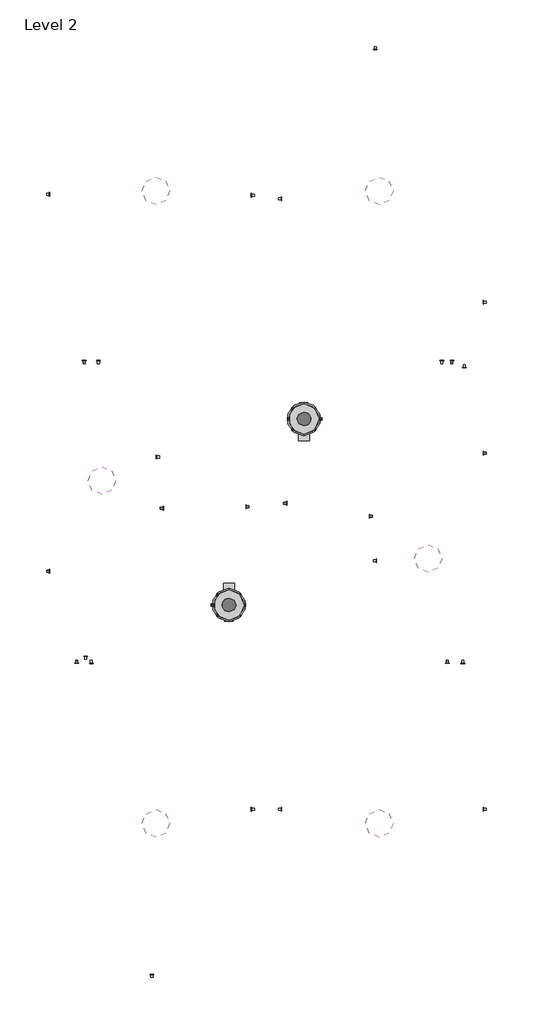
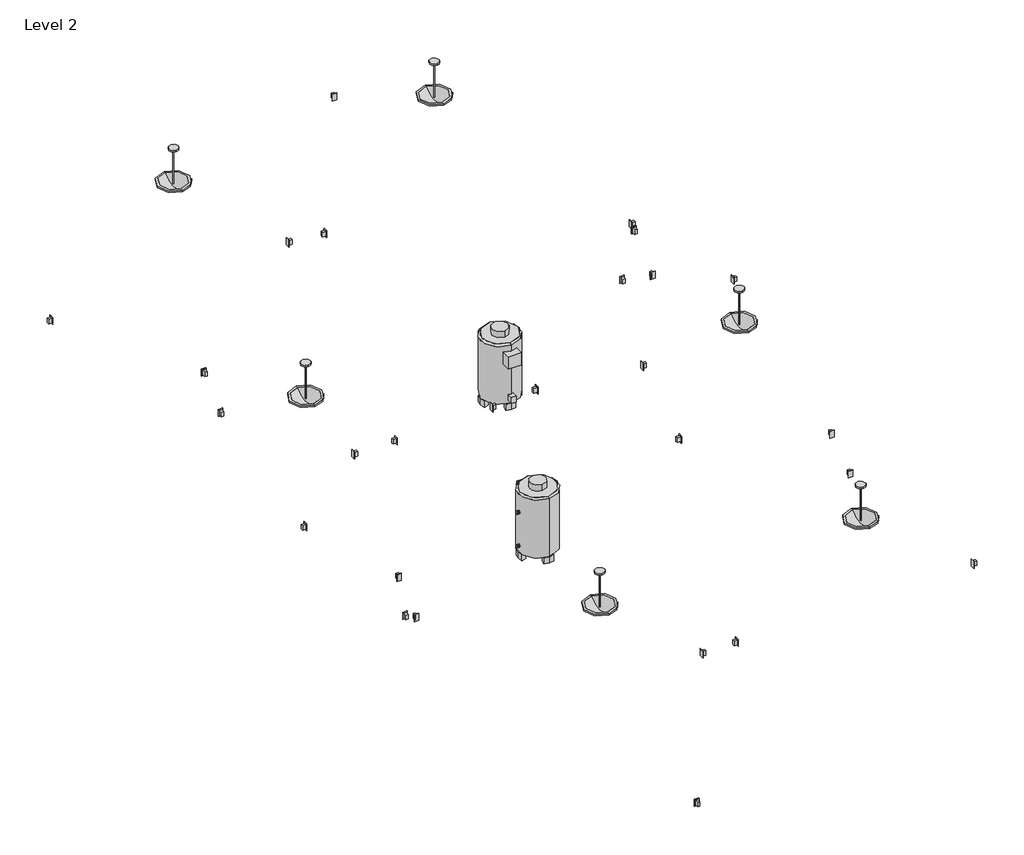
# One storey, incomplete: 19 outlets, 14 light fixtures, 2 unitary equipment elements.
"""IFC4 building model written with IfcOpenShell, lengths in millimetres."""

import ifcopenshell
import ifcopenshell.guid

model = None  # the IFC model being written
_history = None  # IfcOwnerHistory: only IFC2X3 demands one
_inside = {}  # id of a spatial element -> (the spatial element, [elements in it])
_under = {}  # id of a project, library or spatial element -> (it, [spatial elements below it])
_declared = {}  # id of a project -> (the project, [libraries it declares])
_typed = {}  # id of a type object -> (the type object, [elements of that type])
_made_of = {}  # id of a material, layer set ... -> (it, [elements and type objects made of it])


def new_model(schema):
    """Start an empty IFC model of exactly this schema.

    Asked for "IFC4X3", IfcOpenShell would pick the latest addendum, in which some entities
    have other attributes; the version numbers below select the first issue.
    IFC2X3 requires an IfcOwnerHistory on every rooted entity: one is made here for all.
    """
    global model, _history
    if schema == "IFC4X3":
        model = ifcopenshell.file(schema_version=(4, 3, 0, 0))
    else:
        model = ifcopenshell.file(schema=schema)
    _inside.clear()
    _under.clear()
    _declared.clear()
    _typed.clear()
    _made_of.clear()
    _history = None
    if model.schema == "IFC2X3":
        org = make("IfcOrganization", Name="unknown")
        user = make(
            "IfcPersonAndOrganization",
            ThePerson=make("IfcPerson", FamilyName="unknown"),
            TheOrganization=org,
        )
        app = make(
            "IfcApplication",
            ApplicationDeveloper=org,
            Version="unknown",
            ApplicationFullName="unknown",
            ApplicationIdentifier="unknown",
        )
        _history = make(
            "IfcOwnerHistory",
            OwningUser=user,
            OwningApplication=app,
            ChangeAction="ADDED",
            CreationDate=0,
        )
    return model


def make(cls, **values):
    """One entity of the class cls with the attributes given. An attribute that is None is left unset."""
    return model.create_entity(
        cls, **{name: value for name, value in values.items() if value is not None}
    )


def rooted(cls, **values):
    """An entity with a GlobalId (a new one), such as an element, a storey or a relation."""
    return make(cls, GlobalId=ifcopenshell.guid.new(), OwnerHistory=_history, **values)


def si_unit(unit_type, name, prefix=None):
    """IfcSIUnit, for example si_unit("LENGTHUNIT", "METRE", prefix="MILLI")."""
    return make("IfcSIUnit", UnitType=unit_type, Prefix=prefix, Name=name)


def assignment(units):
    """IfcUnitAssignment: the units of a project."""
    return None if units is None else make("IfcUnitAssignment", Units=units)


def point(xyz):
    """IfcCartesianPoint."""
    return None if xyz is None else make("IfcCartesianPoint", Coordinates=xyz)


def direction(xyz):
    """IfcDirection."""
    return None if xyz is None else make("IfcDirection", DirectionRatios=xyz)


def frame(location, z_axis=None, x_axis=None):
    """IfcAxis2Placement3D, a coordinate frame: its origin and axes. An axis left out is left unset."""
    return make(
        "IfcAxis2Placement3D",
        Location=point(location),
        Axis=direction(z_axis),
        RefDirection=direction(x_axis),
    )


def frame_2d(location, x_axis=None):
    """IfcAxis2Placement2D, a coordinate frame in the plane: its origin and x axis."""
    return make(
        "IfcAxis2Placement2D", Location=point(location), RefDirection=direction(x_axis)
    )


def origin():
    """The frame at (0, 0, 0) with its axes left unset."""
    return frame((0.0, 0.0, 0.0))


def origin_with_axes():
    """The frame at (0, 0, 0) with the z axis (0, 0, 1) and the x axis (1, 0, 0) written out."""
    return frame((0.0, 0.0, 0.0), z_axis=(0.0, 0.0, 1.0), x_axis=(1.0, 0.0, 0.0))


def origin_2d():
    """The frame at (0, 0) in the plane with its x axis left unset."""
    return frame_2d((0.0, 0.0))


def place(relative_to, where):
    """IfcLocalPlacement: puts the frame where relative to a parent placement (None: the world)."""
    return make(
        "IfcLocalPlacement", PlacementRelTo=relative_to, RelativePlacement=where
    )


def context(
    kind, dimensions, precision=None, world=None, true_north=None, identifier=None
):
    """IfcGeometricRepresentationContext, for example the 3D "Model" context."""
    return make(
        "IfcGeometricRepresentationContext",
        ContextIdentifier=identifier,
        ContextType=kind,
        CoordinateSpaceDimension=dimensions,
        Precision=precision,
        WorldCoordinateSystem=world,
        TrueNorth=true_north,
    )


def project(units=None, contexts=None):
    """IfcProject with its units and contexts."""
    return rooted(
        "IfcProject",
        Name="project",
        RepresentationContexts=contexts,
        UnitsInContext=assignment(units),
    )


def spatial(cls, under=None, at=None, **own):
    """A site, building, storey or space (cls), placed at a placement, below another one or the project."""
    s = rooted(cls, ObjectPlacement=at, **own)
    if under is not None:
        _under.setdefault(under.id(), (under, []))[1].append(s)
    return s


def polyline(points):
    """IfcPolyline through the points."""
    return make("IfcPolyline", Points=[point(p) for p in points])


def circle_curve(where, radius):
    """IfcCircle in the frame where."""
    return make("IfcCircle", Position=where, Radius=radius)


def ellipse_curve(where, semi_axis1, semi_axis2):
    """IfcEllipse in the frame where."""
    return make(
        "IfcEllipse", Position=where, SemiAxis1=semi_axis1, SemiAxis2=semi_axis2
    )


def trimmed(basis, trim1, trim2, sense, master):
    """IfcTrimmedCurve: the piece of a basis curve between two trims."""
    return make(
        "IfcTrimmedCurve",
        BasisCurve=basis,
        Trim1=trim1,
        Trim2=trim2,
        SenseAgreement=sense,
        MasterRepresentation=master,
    )


def segment(curve, same_sense, transition):
    """IfcCompositeCurveSegment."""
    return make(
        "IfcCompositeCurveSegment",
        Transition=transition,
        SameSense=same_sense,
        ParentCurve=curve,
    )


def composite_curve(segments, self_intersect=None):
    """IfcCompositeCurve: segments joined end to end."""
    return make("IfcCompositeCurve", Segments=segments, SelfIntersect=self_intersect)


def outline(outer, holes=None, kind="AREA"):
    """IfcArbitraryClosedProfileDef: a profile drawn as a closed curve; with holes, ...WithVoids."""
    if holes is None:
        return make("IfcArbitraryClosedProfileDef", ProfileType=kind, OuterCurve=outer)
    return make(
        "IfcArbitraryProfileDefWithVoids",
        ProfileType=kind,
        OuterCurve=outer,
        InnerCurves=holes,
    )


def extrude(swept, where, along, depth):
    """IfcExtrudedAreaSolid: the profile swept, set in the frame where, extruded along a direction by depth."""
    return make(
        "IfcExtrudedAreaSolid",
        SweptArea=swept,
        Position=where,
        ExtrudedDirection=direction(along),
        Depth=depth,
    )


def faces_of(points, faces, orient=None, outer=None):
    """IfcFace entities. A face is a list of loops; a loop is a list of indices into points, from 0.

    orient and outer hold one flag for each loop. By default every Orientation is true, the
    first loop of a face is its IfcFaceOuterBound and the others are IfcFaceBound.
    """
    made = []
    for i, loops in enumerate(faces):
        bounds = []
        for j, loop in enumerate(loops):
            is_outer = j == 0 if outer is None else outer[i][j]
            bounds.append(
                make(
                    "IfcFaceOuterBound" if is_outer else "IfcFaceBound",
                    Bound=make("IfcPolyLoop", Polygon=[points[k] for k in loop]),
                    Orientation=True if orient is None else orient[i][j],
                )
            )
        made.append(make("IfcFace", Bounds=bounds))
    return made


def faceted_brep(points, faces, orient=None, outer=None, voids=None):
    """IfcFacetedBrep: a solid bounded by flat faces; with voids (closed shells), ...WithVoids."""
    shared = [point(p) for p in points]
    hull = make("IfcClosedShell", CfsFaces=faces_of(shared, faces, orient, outer))
    if voids is None:
        return make("IfcFacetedBrep", Outer=hull)
    return make(
        "IfcFacetedBrepWithVoids",
        Outer=hull,
        Voids=[
            make(cls, CfsFaces=faces_of(shared, fs, o, b)) for cls, fs, o, b in voids
        ],
    )


def shape(context_of_items, identifier, shape_type, items):
    """IfcShapeRepresentation: the items that make up one representation, for example the "Body"."""
    return make(
        "IfcShapeRepresentation",
        ContextOfItems=context_of_items,
        RepresentationIdentifier=identifier,
        RepresentationType=shape_type,
        Items=items,
    )


def source(mapping_origin, context_of_items, identifier, shape_type, items):
    """IfcRepresentationMap: a shape defined once, which mapped items show again and again."""
    return make(
        "IfcRepresentationMap",
        MappingOrigin=mapping_origin,
        MappedRepresentation=shape(context_of_items, identifier, shape_type, items),
    )


def transform(
    local_origin,
    x_axis=None,
    y_axis=None,
    z_axis=None,
    scale=None,
    scale2=None,
    scale3=None,
    uniform=True,
):
    """IfcCartesianTransformationOperator3D, or its non-uniform kind. x_axis, y_axis, z_axis: its Axis1, 2, 3."""
    if uniform:
        return make(
            "IfcCartesianTransformationOperator3D",
            Axis1=direction(x_axis),
            Axis2=direction(y_axis),
            LocalOrigin=point(local_origin),
            Scale=scale,
            Axis3=direction(z_axis),
        )
    return make(
        "IfcCartesianTransformationOperator3DnonUniform",
        Axis1=direction(x_axis),
        Axis2=direction(y_axis),
        LocalOrigin=point(local_origin),
        Scale=scale,
        Axis3=direction(z_axis),
        Scale2=scale2,
        Scale3=scale3,
    )


def mapped(mapping_source, mapping_target):
    """IfcMappedItem: shows the shape of a source again, moved by a transform."""
    return make(
        "IfcMappedItem", MappingSource=mapping_source, MappingTarget=mapping_target
    )


def made_of(thing, what):
    """Note that an element or type object is made of a material, layer set ...; save() writes the relation."""
    if what is not None:
        _made_of.setdefault(what.id(), (what, []))[1].append(thing)
    return thing


def element(
    cls,
    number,
    at=None,
    inside=None,
    cuts=None,
    type_object=None,
    material=None,
    context=None,
    identifier="Body",
    shape_type=None,
    held_by="IfcProductDefinitionShape",
    body=None,
    shapes=None,
    **own,
):
    """One element of the class cls, such as IfcWall. Its Tag is "e" and its number.

    at: its placement. inside: the storey or other place that contains it. cuts: it is an
    opening in that element (IfcRelVoidsElement). A single representation is given by context,
    identifier, shape_type and body (its items); several are given by shapes. held_by: the class
    of the entity that holds the representations. save() writes the other relations.
    """
    e = rooted(cls, Tag="e%d" % number, ObjectPlacement=at, **own)
    if body is not None:
        shapes = [shape(context, identifier, shape_type, body)]
    if shapes is not None:
        e.Representation = make(held_by, Representations=shapes)
    if inside is not None:
        _inside.setdefault(inside.id(), (inside, []))[1].append(e)
    if cuts is not None:
        rooted(
            "IfcRelVoidsElement", RelatingBuildingElement=cuts, RelatedOpeningElement=e
        )
    if type_object is not None:
        _typed.setdefault(type_object.id(), (type_object, []))[1].append(e)
    return made_of(e, material)


def aggregate(whole, parts):
    """IfcRelAggregates: a whole, such as a stair, and the parts it consists of."""
    return rooted("IfcRelAggregates", RelatingObject=whole, RelatedObjects=parts)


def save(model, path):
    """Write the relations noted so far, then the file.

    IfcRelAggregates (storeys below a building ...), IfcRelContainedInSpatialStructure (elements
    in a storey), IfcRelDefinesByType, IfcRelAssociatesMaterial and IfcRelDeclares: one each for
    every whole, place, type object, material and project.
    """
    for whole, parts in _under.values():
        aggregate(whole, parts)
    for where, things in _inside.values():
        rooted(
            "IfcRelContainedInSpatialStructure",
            RelatedElements=things,
            RelatingStructure=where,
        )
    for kind, things in _typed.values():
        rooted("IfcRelDefinesByType", RelatedObjects=things, RelatingType=kind)
    for what, things in _made_of.values():
        rooted("IfcRelAssociatesMaterial", RelatedObjects=things, RelatingMaterial=what)
    for by, libraries in _declared.values():
        rooted("IfcRelDeclares", RelatingContext=by, RelatedDefinitions=libraries)
    model.write(path)


def plane_surface(at):
    """IfcPlane: the flat surface through the origin of the frame at, square to its z axis."""
    return make("IfcPlane", Position=at)


def cylinder_surface(at, radius):
    """IfcCylindricalSurface: all points at the distance radius from the z axis of the frame at."""
    return make("IfcCylindricalSurface", Position=at, Radius=radius)


def revolved_surface(curve, axis_point, axis_direction):
    """IfcSurfaceOfRevolution: the curve turned about the line through axis_point along axis_direction."""
    return make(
        "IfcSurfaceOfRevolution",
        SweptCurve=make("IfcArbitraryOpenProfileDef", ProfileType="CURVE", Curve=curve),
        AxisPosition=make("IfcAxis1Placement", Location=point(axis_point), Axis=direction(axis_direction)),
    )


def advanced_brep(points, edges, surfaces, faces):
    """IfcAdvancedBrep: a solid bounded by faces that lie on surfaces and meet in shared edges.

    An edge is (start, end): straight between two places in points (the first is 0);
    or (start, end, curve); or (start, end, curve, False) where it runs against its curve.
    A face is (place in surfaces, loops), or (place, loops, False) where it looks against
    its surface's normal. A loop lists edges by number (the first is 1), with a minus sign
    where the edge is run from its end to its start. The first loop is the outer one.
    """
    corners = [point(p) for p in points]
    vertices = [make("IfcVertexPoint", VertexGeometry=c) for c in corners]
    made = []
    for start, end, *more in edges:
        made.append(
            make(
                "IfcEdgeCurve",
                EdgeStart=vertices[start],
                EdgeEnd=vertices[end],
                EdgeGeometry=more[0] if more else make("IfcPolyline", Points=[corners[start], corners[end]]),
                SameSense=more[1] if len(more) > 1 else True,
            )
        )
    hull = []
    for where, loops, *sense in faces:
        bounds = []
        for j, loop in enumerate(loops):
            ring = [make("IfcOrientedEdge", EdgeElement=made[abs(k) - 1], Orientation=k > 0) for k in loop]
            bounds.append(
                make(
                    "IfcFaceOuterBound" if j == 0 else "IfcFaceBound",
                    Bound=make("IfcEdgeLoop", EdgeList=ring),
                    Orientation=True,
                )
            )
        hull.append(make("IfcAdvancedFace", Bounds=bounds, FaceSurface=surfaces[where], SameSense=sense[0] if sense else True))
    return make("IfcAdvancedBrep", Outer=make("IfcClosedShell", CfsFaces=hull))


def m_duplex_receptacle_duplex_receptacle_10251bba(model_context):
    return source(origin(), model_context, "Body", "SweptSolid", [
        extrude(outline(polyline([(19.05, 38.1), (19.05, -38.1), (-19.05, -38.1), (-19.05, 38.1), (19.05, 38.1)])), frame((0.0, 0.0, -53.975), z_axis=(0.0, 0.0, 1.0), x_axis=(1.0, 0.0, 0.0)), (0.0, 0.0, 1.0), 53.975),
        extrude(outline(polyline([(34.925, 57.15), (34.925, -57.15), (-34.925, -57.15), (-34.925, 57.15), (34.925, 57.15)])), origin_with_axes(), (0.0, 0.0, 1.0), 4.7625),
    ])


def m_pendant_light_hemisphere_150w_120v_8bc6cad5(model_context):
    return source(origin(), model_context, "Body", "AdvancedBrep", [
        advanced_brep(
        [(-6.35, 0.0, 598.8), (6.35, 0.0, 598.8), (-76.2, 0.0, 0.0), (76.2, 0.0, 0.0), (-6.35, 0.0, 58.1421875), (6.35, 0.0, 58.1421875), (76.2, 0.0, 25.4), (-76.2, 0.0, 25.4)],
        [
            (0, 1, circle_curve(frame((0.0, 0.0, 598.8), z_axis=(0.0, 0.0, 1.0), x_axis=(1.0, 0.0, 0.0)), 6.35)),
            (1, 0, circle_curve(frame((0.0, 0.0, 598.8), z_axis=(0.0, 0.0, 1.0), x_axis=(1.0, 0.0, 0.0)), 6.35)),
            (2, 3, circle_curve(frame((0.0, 0.0, 0.0), z_axis=(0.0, 0.0, -1.0), x_axis=(-1.0, 0.0, 0.0)), 76.2)),
            (3, 2, circle_curve(frame((0.0, 0.0, 0.0), z_axis=(0.0, 0.0, -1.0), x_axis=(-1.0, 0.0, 0.0)), 76.2)),
            (0, 4),
            (4, 5, circle_curve(frame((0.0, 0.0, 58.1421875), z_axis=(0.0, 0.0, 1.0), x_axis=(1.0, 0.0, 0.0)), 6.35)),
            (5, 1),
            (5, 4, circle_curve(frame((0.0, 0.0, 58.1421875), z_axis=(0.0, 0.0, 1.0), x_axis=(1.0, 0.0, 0.0)), 6.35)),
            (6, 7, circle_curve(frame((0.0, 0.0, 25.4), z_axis=(0.0, 0.0, 1.0), x_axis=(-1.0, 0.0, 0.0)), 76.2)),
            (7, 4),
            (5, 6),
            (7, 6, circle_curve(frame((0.0, 0.0, 25.4), z_axis=(0.0, 0.0, 1.0), x_axis=(-1.0, 0.0, 0.0)), 76.2)),
            (2, 7),
            (6, 3),
        ],
        [
            plane_surface(frame((6.35, 0.0, 598.8), z_axis=(0.0, 0.0, 1.0), x_axis=(0.0, 1.0, 0.0))),
            plane_surface(frame((6.35, 0.0, 0.0), z_axis=(0.0, 0.0, -1.0), x_axis=(0.0, -1.0, 0.0))),
            cylinder_surface(origin_with_axes(), 6.35),
            revolved_surface(polyline([(0.0, 0.0, 61.11875), (-76.2, 0.0, 25.4)]), (0.0, 0.0, -44.5149987), (0.0, 0.0, -1.0)),
            cylinder_surface(frame((0.0, 0.0, -44.5149987), z_axis=(0.0, 0.0, -1.0), x_axis=(-1.0, 0.0, 0.0)), 76.2),
        ],
        [
            (0, [[1, 2]]),
            (1, [[3, 4]]),
            (2, [[-1, 5, 6, 7]]),
            (2, [[-2, -7, 8, -5]]),
            (3, [[9, 10, -8, 11]]),
            (3, [[12, -11, -6, -10]]),
            (4, [[-3, 13, -9, 14]]),
            (4, [[-4, -14, -12, -13]]),
        ],
    ),
        advanced_brep(
        [(218.28125, 0.0, 552.7625), (-218.28125, 0.0, 552.7625), (-254.0, 0.0, 552.7625), (254.0, 0.0, 552.7625), (0.0, 0.0, 649.6), (228.6, 0.0, 578.1625), (-228.6, 0.0, 578.1625), (0.0, 0.0, 675.0), (254.0, 0.0, 578.1625), (-254.0, 0.0, 578.1625)],
        [
            (0, 1, circle_curve(frame((0.0, 0.0, 552.7625), z_axis=(0.0, 0.0, 1.0), x_axis=(-1.0, 0.0, 0.0)), 218.28125)),
            (1, 2),
            (2, 3, circle_curve(frame((0.0, 0.0, 552.7625), z_axis=(0.0, 0.0, -1.0), x_axis=(-1.0, 0.0, 0.0)), 254.0)),
            (3, 0),
            (1, 0, circle_curve(frame((0.0, 0.0, 552.7625), z_axis=(0.0, 0.0, 1.0), x_axis=(-1.0, 0.0, 0.0)), 218.28125)),
            (3, 2, circle_curve(frame((0.0, 0.0, 552.7625), z_axis=(0.0, 0.0, -1.0), x_axis=(-1.0, 0.0, 0.0)), 254.0)),
            (4, 1, circle_curve(frame((7.2905558, 0.0, 338.7339163), z_axis=(0.0, -1.0, 0.0), x_axis=(1.0, 0.0, 0.0)), 310.9515625)),
            (0, 4, circle_curve(frame((-7.2905558, 0.0, 338.7339163), z_axis=(0.0, -1.0, 0.0), x_axis=(-1.0, 0.0, 0.0)), 310.9515625)),
            (5, 6, circle_curve(frame((0.0, 0.0, 578.1625), z_axis=(0.0, 0.0, 1.0), x_axis=(-1.0, 0.0, 0.0)), 228.6)),
            (6, 7, circle_curve(frame((6.0510717, 0.0, 342.473802), z_axis=(0.0, 1.0, 0.0), x_axis=(1.0, 0.0, 0.0)), 332.58125)),
            (7, 5, circle_curve(frame((-6.0510717, 0.0, 342.473802), z_axis=(0.0, 1.0, 0.0), x_axis=(-1.0, 0.0, 0.0)), 332.58125)),
            (6, 5, circle_curve(frame((0.0, 0.0, 578.1625), z_axis=(0.0, 0.0, 1.0), x_axis=(-1.0, 0.0, 0.0)), 228.6)),
            (8, 9, circle_curve(frame((0.0, 0.0, 578.1625), z_axis=(0.0, 0.0, 1.0), x_axis=(-1.0, 0.0, 0.0)), 254.0)),
            (9, 6),
            (5, 8),
            (9, 8, circle_curve(frame((0.0, 0.0, 578.1625), z_axis=(0.0, 0.0, 1.0), x_axis=(-1.0, 0.0, 0.0)), 254.0)),
            (2, 9),
            (8, 3),
        ],
        [
            plane_surface(frame((0.0, 0.0, 552.7625), z_axis=(0.0, 0.0, -1.0), x_axis=(-1.0, 0.0, 0.0))),
            revolved_surface(trimmed(ellipse_curve(frame((7.2905558, 0.0, 338.7339163), z_axis=(0.0, 1.0, 0.0), x_axis=(1.0, 0.0, 0.0)), 310.9515625, 310.9515625), [point((-218.28125, 0.0, 552.7625))], [point((0.0, 0.0, 649.6))], True, "CARTESIAN"), (0.0, 0.0, 625.9377177), (0.0, 0.0, -1.0)),
            revolved_surface(trimmed(ellipse_curve(frame((6.0510717, 0.0, 342.473802), z_axis=(0.0, -1.0, 0.0), x_axis=(1.0, 0.0, 0.0)), 332.58125, 332.58125), [point((0.0, 0.0, 675.0))], [point((-228.6, 0.0, 578.1625))], True, "CARTESIAN"), (0.0, 0.0, 625.9377177), (0.0, 0.0, -1.0)),
            plane_surface(frame((0.0, 0.0, 578.1625), z_axis=(0.0, 0.0, 1.0), x_axis=(-1.0, 0.0, 0.0))),
            cylinder_surface(frame((0.0, 0.0, 625.9377177), z_axis=(0.0, 0.0, -1.0), x_axis=(-1.0, 0.0, 0.0)), 254.0),
        ],
        [
            (0, [[1, 2, 3, 4]]),
            (0, [[5, -4, 6, -2]]),
            (1, [[7, -1, 8]]),
            (1, [[-8, -5, -7]]),
            (2, [[9, 10, 11]]),
            (2, [[12, -11, -10]]),
            (3, [[13, 14, -9, 15]]),
            (3, [[16, -15, -12, -14]]),
            (4, [[-3, 17, -13, 18]]),
            (4, [[-6, -18, -16, -17]]),
        ],
    ),
    ])


def m_hot_water_boiler_59_440_kw_147_kw_86a3cd63(model_context):
    return source(origin(), model_context, "Body", "SolidModel", [
        extrude(outline(composite_curve([segment(trimmed(circle_curve(frame_2d((761.8, 0.0)), 25.4), [point((761.8, -25.4))], [point((761.8, 25.4))], False, "CARTESIAN"), True, "CONTINUOUS"), segment(trimmed(circle_curve(frame_2d((761.8, 0.0)), 25.4), [point((761.8, 25.4))], [point((761.8, -25.4))], False, "CARTESIAN"), True, "CONTINUOUS")], self_intersect=False)), frame((0.0, -330.4, 0.0), z_axis=(0.0, 1.0, 0.0), x_axis=(0.0, 0.0, 1.0)), (0.0, 0.0, 1.0), 50.8),
        extrude(outline(composite_curve([segment(trimmed(circle_curve(frame_2d((203.2, 0.0)), 25.4), [point((203.2, -25.4))], [point((203.2, 25.4))], False, "CARTESIAN"), True, "CONTINUOUS"), segment(trimmed(circle_curve(frame_2d((203.2, 0.0)), 25.4), [point((203.2, 25.4))], [point((203.2, -25.4))], False, "CARTESIAN"), True, "CONTINUOUS")], self_intersect=False)), frame((0.0, -330.4, 0.0), z_axis=(0.0, 1.0, 0.0), x_axis=(0.0, 0.0, 1.0)), (0.0, 0.0, 1.0), 50.8),
        extrude(outline(composite_curve([segment(trimmed(circle_curve(origin_2d(), 305.0), [point((-305.0, 0.0))], [point((-294.607377, 78.9398088))], False, "CARTESIAN"), True, "CONTINUOUS"), segment(polyline([(-294.607377, 78.9398088), (-221.0038291, 59.2177975)]), True, "CONTINUOUS"), segment(trimmed(circle_curve(origin_2d(), 228.8), [point((-221.0038291, 59.2177975))], [point((-228.8, 0.0))], True, "CARTESIAN"), True, "CONTINUOUS"), segment(trimmed(circle_curve(origin_2d(), 228.8), [point((-228.8, 0.0))], [point((-221.0038291, -59.2177975))], True, "CARTESIAN"), True, "CONTINUOUS"), segment(polyline([(-221.0038291, -59.2177975), (-294.607377, -78.9398088)]), True, "CONTINUOUS"), segment(trimmed(circle_curve(origin_2d(), 305.0), [point((-294.607377, -78.9398088))], [point((-305.0, 0.0))], False, "CARTESIAN"), True, "CONTINUOUS")], self_intersect=False)), origin_with_axes(), (0.0, 0.0, 1.0), 101.6),
        extrude(outline(composite_curve([segment(trimmed(circle_curve(origin_2d(), 305.0), [point((-78.9398088, 294.607377))], [point((0.0, 305.0))], False, "CARTESIAN"), True, "CONTINUOUS"), segment(trimmed(circle_curve(origin_2d(), 305.0), [point((0.0, 305.0))], [point((78.9398088, 294.607377))], False, "CARTESIAN"), True, "CONTINUOUS"), segment(polyline([(78.9398088, 294.607377), (59.2177975, 221.0038291)]), True, "CONTINUOUS"), segment(trimmed(circle_curve(origin_2d(), 228.8), [point((59.2177975, 221.0038291))], [point((0.0, 228.8))], True, "CARTESIAN"), True, "CONTINUOUS"), segment(trimmed(circle_curve(origin_2d(), 228.8), [point((0.0, 228.8))], [point((-59.2177975, 221.0038291))], True, "CARTESIAN"), True, "CONTINUOUS"), segment(polyline([(-59.2177975, 221.0038291), (-78.9398088, 294.607377)]), True, "CONTINUOUS")], self_intersect=False)), origin_with_axes(), (0.0, 0.0, 1.0), 101.6),
        extrude(outline(composite_curve([segment(trimmed(circle_curve(origin_2d(), 305.0), [point((305.0, 0.0))], [point((294.607377, -78.9398088))], False, "CARTESIAN"), True, "CONTINUOUS"), segment(polyline([(294.607377, -78.9398088), (221.0038291, -59.2177975)]), True, "CONTINUOUS"), segment(trimmed(circle_curve(origin_2d(), 228.8), [point((221.0038291, -59.2177975))], [point((228.8, 0.0))], True, "CARTESIAN"), True, "CONTINUOUS"), segment(trimmed(circle_curve(origin_2d(), 228.8), [point((228.8, 0.0))], [point((221.0038291, 59.2177975))], True, "CARTESIAN"), True, "CONTINUOUS"), segment(polyline([(221.0038291, 59.2177975), (294.607377, 78.9398088)]), True, "CONTINUOUS"), segment(trimmed(circle_curve(origin_2d(), 305.0), [point((294.607377, 78.9398088))], [point((305.0, 0.0))], False, "CARTESIAN"), True, "CONTINUOUS")], self_intersect=False)), origin_with_axes(), (0.0, 0.0, 1.0), 101.6),
        extrude(outline(composite_curve([segment(polyline([(-78.9398088, -294.607377), (-59.2177975, -221.0038291)]), True, "CONTINUOUS"), segment(trimmed(circle_curve(origin_2d(), 228.8), [point((-59.2177975, -221.0038291))], [point((0.0, -228.8))], True, "CARTESIAN"), True, "CONTINUOUS"), segment(trimmed(circle_curve(origin_2d(), 228.8), [point((0.0, -228.8))], [point((59.2177975, -221.0038291))], True, "CARTESIAN"), True, "CONTINUOUS"), segment(polyline([(59.2177975, -221.0038291), (78.9398088, -294.607377)]), True, "CONTINUOUS"), segment(trimmed(circle_curve(origin_2d(), 305.0), [point((78.9398088, -294.607377))], [point((0.0, -305.0))], False, "CARTESIAN"), True, "CONTINUOUS"), segment(trimmed(circle_curve(origin_2d(), 305.0), [point((0.0, -305.0))], [point((-78.9398088, -294.607377))], False, "CARTESIAN"), True, "CONTINUOUS")], self_intersect=False)), origin_with_axes(), (0.0, 0.0, 1.0), 101.6),
        advanced_brep(
        [(-127.0, 0.0, 1194.0), (127.0, 0.0, 1194.0), (-127.0, 0.0, 1092.0), (127.0, 0.0, 1092.0), (-280.0, 0.0, 1092.0), (280.0, 0.0, 1092.0), (-305.0, 0.0, 1066.6), (305.0, 0.0, 1066.6)],
        [
            (0, 1, circle_curve(frame((0.0, 0.0, 1194.0), z_axis=(0.0, 0.0, 1.0), x_axis=(1.0, 0.0, 0.0)), 127.0)),
            (1, 0, circle_curve(frame((0.0, 0.0, 1194.0), z_axis=(0.0, 0.0, 1.0), x_axis=(1.0, 0.0, 0.0)), 127.0)),
            (0, 2),
            (2, 3, circle_curve(frame((0.0, 0.0, 1092.0), z_axis=(0.0, 0.0, 1.0), x_axis=(1.0, 0.0, 0.0)), 127.0)),
            (3, 1),
            (3, 2, circle_curve(frame((0.0, 0.0, 1092.0), z_axis=(0.0, 0.0, 1.0), x_axis=(1.0, 0.0, 0.0)), 127.0)),
            (4, 5, circle_curve(frame((0.0, 0.0, 1092.0), z_axis=(0.0, 0.0, 1.0), x_axis=(-1.0, 0.0, 0.0)), 280.0)),
            (5, 4, circle_curve(frame((0.0, 0.0, 1092.0), z_axis=(0.0, 0.0, 1.0), x_axis=(1.0, 0.0, 0.0)), 280.0)),
            (6, 7, circle_curve(frame((0.0, 0.0, 1066.6), z_axis=(0.0, 0.0, -1.0), x_axis=(1.0, 0.0, 0.0)), 305.0)),
            (7, 6, circle_curve(frame((0.0, 0.0, 1066.6), z_axis=(0.0, 0.0, -1.0), x_axis=(-1.0, 0.0, 0.0)), 305.0)),
            (4, 6),
            (7, 5),
        ],
        [
            plane_surface(frame((127.0, 0.0, 1194.0), z_axis=(0.0, 0.0, 1.0), x_axis=(0.0, 1.0, 0.0))),
            cylinder_surface(frame((0.0, 0.0, 1092.0), z_axis=(0.0, 0.0, 1.0), x_axis=(1.0, 0.0, 0.0)), 127.0),
            plane_surface(frame((0.0, 0.0, 1092.0), z_axis=(0.0, 0.0, 1.0), x_axis=(0.0, -1.0, 0.0))),
            plane_surface(frame((0.0, 0.0, 1066.6), z_axis=(0.0, 0.0, -1.0), x_axis=(0.0, -1.0, 0.0))),
            revolved_surface(polyline([(-279.9999999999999, 0.0, 1092.0), (-305.0, 0.0, 1066.6)]), (0.0, 0.0, 1376.48), (0.0, 0.0, -1.0)),
            revolved_surface(polyline([(279.9999999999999, 0.0, 1092.0), (305.0, 0.0, 1066.6)]), (0.0, 0.0, 1376.48), (0.0, 0.0, -1.0)),
        ],
        [
            (0, [[1, 2]]),
            (1, [[-1, 3, 4, 5]]),
            (1, [[-2, -5, 6, -3]]),
            (2, [[7, 8], [-4, -6]]),
            (3, [[9, 10]]),
            (4, [[-7, 11, -10, 12]]),
            (5, [[-8, -12, -9, -11]]),
        ],
    ),
        faceted_brep([(0.0, -101.5, 965.0), (0.0, 101.5, 965.0), (-399.0, 101.5, 965.0), (-399.0, -101.5, 965.0), (0.0, -101.5, 762.0), (-399.0, -101.5, 762.0), (-399.0, 101.5, 762.0), (0.0, 101.5, 762.0)], [[[0, 1, 2, 3]], [[4, 5, 6, 7]], [[1, 0, 4, 7]], [[2, 1, 7, 6]], [[3, 2, 6, 5]], [[0, 3, 5, 4]]]),
        extrude(outline(polyline([(0.0, -38.1), (-381.2, -38.1), (-381.2, 38.1), (0.0, 38.1), (0.0, -38.1)])), frame((0.0, 0.0, 152.4), z_axis=(0.0, 0.0, 1.0), x_axis=(1.0, 0.0, 0.0)), (0.0, 0.0, 1.0), 101.6),
        extrude(outline(composite_curve([segment(trimmed(circle_curve(origin_2d(), 305.0), [point((-305.0, 0.0))], [point((305.0, 0.0))], False, "CARTESIAN"), True, "CONTINUOUS"), segment(trimmed(circle_curve(origin_2d(), 305.0), [point((305.0, 0.0))], [point((-305.0, 0.0))], False, "CARTESIAN"), True, "CONTINUOUS")], self_intersect=False)), frame((0.0, 0.0, 101.6), z_axis=(0.0, 0.0, 1.0), x_axis=(1.0, 0.0, 0.0)), (0.0, 0.0, 1.0), 965.0),
        extrude(outline(composite_curve([segment(trimmed(circle_curve(frame_2d((203.2, 0.0)), 25.4), [point((203.2, 25.4))], [point((203.2, -25.4))], False, "CARTESIAN"), True, "CONTINUOUS"), segment(trimmed(circle_curve(frame_2d((203.2, 0.0)), 25.4), [point((203.2, -25.4))], [point((203.2, 25.4))], False, "CARTESIAN"), True, "CONTINUOUS")], self_intersect=False)), frame((0.0, -330.4, 0.0), z_axis=(0.0, 1.0, 0.0), x_axis=(0.0, 0.0, 1.0)), (0.0, 0.0, 1.0), 50.8),
        extrude(outline(composite_curve([segment(trimmed(circle_curve(frame_2d((761.8, 0.0)), 25.4), [point((761.8, 25.4))], [point((761.8, -25.4))], False, "CARTESIAN"), True, "CONTINUOUS"), segment(trimmed(circle_curve(frame_2d((761.8, 0.0)), 25.4), [point((761.8, -25.4))], [point((761.8, 25.4))], False, "CARTESIAN"), True, "CONTINUOUS")], self_intersect=False)), frame((0.0, -330.4, 0.0), z_axis=(0.0, 1.0, 0.0), x_axis=(0.0, 0.0, 1.0)), (0.0, 0.0, 1.0), 50.8),
    ])


model = new_model("IFC4")

# Units and contexts
model_context = context("Model", 3, world=origin())
ifc_project = project(units=[si_unit("LENGTHUNIT", "METRE", prefix="MILLI")], contexts=[model_context])

# Site, building, storey
site = spatial("IfcSite", under=ifc_project)
building = spatial("IfcBuilding", under=site)
storey = spatial("IfcBuildingStorey", under=building, Name="Level 2", Elevation=3100.0)

# Light fixtures
placement = place(None, origin())
m_duplex_receptacle_duplex_receptacle_shape = m_duplex_receptacle_duplex_receptacle_10251bba(model_context)
element("IfcLightFixture", 1, ObjectType="M_Lighting Switches : Single Pole", at=placement, inside=storey, context=model_context, shape_type="MappedRepresentation", body=[
    mapped(m_duplex_receptacle_duplex_receptacle_shape, transform((7807.8619323, -6126.0, 4320.0), x_axis=(-1.0, 0.0, 0.0), y_axis=(0.0, 0.0, 1.0), z_axis=(0.0, 1.0, 0.0))),
])
element("IfcLightFixture", 2, ObjectType="M_Lighting Switches : Single Pole", at=placement, inside=storey, context=model_context, shape_type="MappedRepresentation", body=[
    mapped(m_duplex_receptacle_duplex_receptacle_shape, transform((1052.0232805, -6126.0, 4320.0), x_axis=(-1.0, 0.0, 0.0), y_axis=(0.0, 0.0, 1.0), z_axis=(0.0, 1.0, 0.0))),
])
element("IfcLightFixture", 3, ObjectType="M_Lighting Switches : Single Pole", at=placement, inside=storey, context=model_context, shape_type="MappedRepresentation", body=[
    mapped(m_duplex_receptacle_duplex_receptacle_shape, transform((2506.0, -8831.9101049, 4320.0), x_axis=(0.0, 1.0, 0.0), y_axis=(0.0, 0.0, 1.0), z_axis=(1.0, 0.0, 0.0))),
])
element("IfcLightFixture", 4, ObjectType="M_Lighting Switches : Single Pole", at=placement, inside=storey, context=model_context, shape_type="MappedRepresentation", body=[
    mapped(m_duplex_receptacle_duplex_receptacle_shape, transform((6294.0, -8979.0569319, 4320.0), x_axis=(0.0, -1.0, 0.0), y_axis=(0.0, 0.0, 1.0), z_axis=(-1.0, 0.0, 0.0))),
])
element("IfcLightFixture", 5, ObjectType="M_Lighting Switches : Single Pole", at=placement, inside=storey, context=model_context, shape_type="MappedRepresentation", body=[
    mapped(m_duplex_receptacle_duplex_receptacle_shape, transform((915.9634783, -11674.0, 4320.0), x_axis=(1.0, 0.0, 0.0), y_axis=(0.0, 0.0, 1.0), z_axis=(0.0, -1.0, 0.0))),
])
element("IfcLightFixture", 6, ObjectType="M_Lighting Switches : Single Pole", at=placement, inside=storey, context=model_context, shape_type="MappedRepresentation", body=[
    mapped(m_duplex_receptacle_duplex_receptacle_shape, transform((7718.9535876, -11674.0, 4320.0), x_axis=(1.0, 0.0, 0.0), y_axis=(0.0, 0.0, 1.0), z_axis=(0.0, -1.0, 0.0))),
])
element("IfcLightFixture", 7, ObjectType="M_Lighting Switches : Single Pole", at=placement, inside=storey, context=model_context, shape_type="MappedRepresentation", body=[
    mapped(m_duplex_receptacle_duplex_receptacle_shape, transform((8383.0, -7821.8762998, 4320.0), x_axis=(0.0, -1.0, 0.0), y_axis=(0.0, 0.0, 1.0), z_axis=(-1.0, 0.0, 0.0))),
])
element("IfcLightFixture", 8, ObjectType="M_Lighting Switches : Single Pole", at=placement, inside=storey, context=model_context, shape_type="MappedRepresentation", body=[
    mapped(m_duplex_receptacle_duplex_receptacle_shape, transform((417.0, -9985.5802617, 4320.0), x_axis=(0.0, 1.0, 0.0), y_axis=(0.0, 0.0, 1.0), z_axis=(1.0, 0.0, 0.0))),
])
m_pendant_light_hemisphere_150w_120v_shape = m_pendant_light_hemisphere_150w_120v_8bc6cad5(model_context)
element("IfcLightFixture", 9, ObjectType="M_Pendant Light - Hemisphere : 150W - 120V", at=placement, inside=storey, context=model_context, shape_type="MappedRepresentation", body=[
    mapped(m_pendant_light_hemisphere_150w_120v_shape, transform((2372.9707137, -14610.5003862, 5700.0), x_axis=(0.0, 1.0, 0.0), y_axis=(1.0, 0.0, 0.0), z_axis=(0.0, 0.0, -1.0))),
])
element("IfcLightFixture", 10, ObjectType="M_Pendant Light - Hemisphere : 150W - 120V", at=placement, inside=storey, context=model_context, shape_type="MappedRepresentation", body=[
    mapped(m_pendant_light_hemisphere_150w_120v_shape, transform((6472.9707137, -14610.5003862, 5700.0), x_axis=(0.0, 1.0, 0.0), y_axis=(1.0, 0.0, 0.0), z_axis=(0.0, 0.0, -1.0))),
])
element("IfcLightFixture", 11, ObjectType="M_Pendant Light - Hemisphere : 150W - 120V", at=placement, inside=storey, context=model_context, shape_type="MappedRepresentation", body=[
    mapped(m_pendant_light_hemisphere_150w_120v_shape, transform((6472.9707137, -3010.5003862, 5700.0), x_axis=(0.0, 1.0, 0.0), y_axis=(1.0, 0.0, 0.0), z_axis=(0.0, 0.0, -1.0))),
])
element("IfcLightFixture", 12, ObjectType="M_Pendant Light - Hemisphere : 150W - 120V", at=placement, inside=storey, context=model_context, shape_type="MappedRepresentation", body=[
    mapped(m_pendant_light_hemisphere_150w_120v_shape, transform((2372.9707137, -3010.5003862, 5700.0), x_axis=(0.0, 1.0, 0.0), y_axis=(1.0, 0.0, 0.0), z_axis=(0.0, 0.0, -1.0))),
])
element("IfcLightFixture", 13, ObjectType="M_Pendant Light - Hemisphere : 150W - 120V", at=placement, inside=storey, context=model_context, shape_type="MappedRepresentation", body=[
    mapped(m_pendant_light_hemisphere_150w_120v_shape, transform((7368.6, -9755.0, 5700.0), x_axis=(0.0, 1.0, 0.0), y_axis=(1.0, 0.0, 0.0), z_axis=(0.0, 0.0, -1.0))),
])
element("IfcLightFixture", 14, ObjectType="M_Pendant Light - Hemisphere : 150W - 120V", at=placement, inside=storey, context=model_context, shape_type="MappedRepresentation", body=[
    mapped(m_pendant_light_hemisphere_150w_120v_shape, transform((1381.4, -8325.0, 5700.0), x_axis=(0.0, 1.0, 0.0), y_axis=(1.0, 0.0, 0.0), z_axis=(0.0, 0.0, -1.0))),
])

# Outlets
element("IfcOutlet", 15, ObjectType="M_Duplex Receptacle : Duplex Receptacle", at=placement, inside=storey, context=model_context, shape_type="MappedRepresentation", body=[
    mapped(m_duplex_receptacle_duplex_receptacle_shape, transform((6397.8543682, -417.0, 3558.0), x_axis=(1.0, 0.0, 0.0), y_axis=(0.0, 0.0, 1.0), z_axis=(0.0, -1.0, 0.0))),
])
element("IfcOutlet", 16, ObjectType="M_Duplex Receptacle : Duplex Receptacle", at=placement, inside=storey, context=model_context, shape_type="MappedRepresentation", body=[
    mapped(m_duplex_receptacle_duplex_receptacle_shape, transform((4675.0, -3153.261852, 3558.0), x_axis=(0.0, 1.0, 0.0), y_axis=(0.0, 0.0, 1.0), z_axis=(1.0, 0.0, 0.0))),
])
element("IfcOutlet", 17, ObjectType="M_Duplex Receptacle : Duplex Receptacle", at=placement, inside=storey, context=model_context, shape_type="MappedRepresentation", body=[
    mapped(m_duplex_receptacle_duplex_receptacle_shape, transform((8383.0, -5053.261852, 3558.0), x_axis=(0.0, -1.0, 0.0), y_axis=(0.0, 0.0, 1.0), z_axis=(-1.0, 0.0, 0.0))),
])
element("IfcOutlet", 18, ObjectType="M_Duplex Receptacle : Duplex Receptacle", at=placement, inside=storey, context=model_context, shape_type="MappedRepresentation", body=[
    mapped(m_duplex_receptacle_duplex_receptacle_shape, transform((7621.9593308, -6126.0, 3558.0), x_axis=(-1.0, 0.0, 0.0), y_axis=(0.0, 0.0, 1.0), z_axis=(0.0, 1.0, 0.0))),
])
element("IfcOutlet", 19, ObjectType="M_Duplex Receptacle : Duplex Receptacle", at=placement, inside=storey, context=model_context, shape_type="MappedRepresentation", body=[
    mapped(m_duplex_receptacle_duplex_receptacle_shape, transform((4770.0, -8741.1536312, 4318.0), x_axis=(0.0, 1.0, 0.0), y_axis=(0.0, 0.0, 1.0), z_axis=(1.0, 0.0, 0.0))),
])
element("IfcOutlet", 20, ObjectType="M_Duplex Receptacle : Duplex Receptacle", at=placement, inside=storey, context=model_context, shape_type="MappedRepresentation", body=[
    mapped(m_duplex_receptacle_duplex_receptacle_shape, transform((4030.0, -8804.5180846, 4318.0), x_axis=(0.0, -1.0, 0.0), y_axis=(0.0, 0.0, 1.0), z_axis=(-1.0, 0.0, 0.0))),
])
element("IfcOutlet", 21, ObjectType="M_Duplex Receptacle : Duplex Receptacle", at=placement, inside=storey, context=model_context, shape_type="MappedRepresentation", body=[
    mapped(m_duplex_receptacle_duplex_receptacle_shape, transform((417.0, -3073.3234067, 3558.0), x_axis=(0.0, 1.0, 0.0), y_axis=(0.0, 0.0, 1.0), z_axis=(1.0, 0.0, 0.0))),
])
element("IfcOutlet", 22, ObjectType="M_Duplex Receptacle : Duplex Receptacle", at=placement, inside=storey, context=model_context, shape_type="MappedRepresentation", body=[
    mapped(m_duplex_receptacle_duplex_receptacle_shape, transform((4125.0, -3090.4701997, 3558.0), x_axis=(0.0, -1.0, 0.0), y_axis=(0.0, 0.0, 1.0), z_axis=(-1.0, 0.0, 0.0))),
])
element("IfcOutlet", 23, ObjectType="M_Duplex Receptacle : Duplex Receptacle", at=placement, inside=storey, context=model_context, shape_type="MappedRepresentation", body=[
    mapped(m_duplex_receptacle_duplex_receptacle_shape, transform((1315.4803539, -6126.0, 3558.0), x_axis=(-1.0, 0.0, 0.0), y_axis=(0.0, 0.0, 1.0), z_axis=(0.0, 1.0, 0.0))),
])
element("IfcOutlet", 24, ObjectType="M_Duplex Receptacle : Duplex Receptacle", at=placement, inside=storey, context=model_context, shape_type="MappedRepresentation", body=[
    mapped(m_duplex_receptacle_duplex_receptacle_shape, transform((2382.0, -7891.5722302, 3558.0), x_axis=(0.0, -1.0, 0.0), y_axis=(0.0, 0.0, 1.0), z_axis=(-1.0, 0.0, 0.0))),
])
element("IfcOutlet", 25, ObjectType="M_Duplex Receptacle : Duplex Receptacle", at=placement, inside=storey, context=model_context, shape_type="MappedRepresentation", body=[
    mapped(m_duplex_receptacle_duplex_receptacle_shape, transform((1084.1438786, -11550.0, 3558.0), x_axis=(-1.0, 0.0, 0.0), y_axis=(0.0, 0.0, 1.0), z_axis=(0.0, 1.0, 0.0))),
])
element("IfcOutlet", 26, ObjectType="M_Duplex Receptacle : Duplex Receptacle", at=placement, inside=storey, context=model_context, shape_type="MappedRepresentation", body=[
    mapped(m_duplex_receptacle_duplex_receptacle_shape, transform((6418.0, -9791.444388, 3558.0), x_axis=(0.0, 1.0, 0.0), y_axis=(0.0, 0.0, 1.0), z_axis=(1.0, 0.0, 0.0))),
])
element("IfcOutlet", 27, ObjectType="M_Duplex Receptacle : Duplex Receptacle", at=placement, inside=storey, context=model_context, shape_type="MappedRepresentation", body=[
    mapped(m_duplex_receptacle_duplex_receptacle_shape, transform((8033.1225928, -6250.0, 3558.0), x_axis=(1.0, 0.0, 0.0), y_axis=(0.0, 0.0, 1.0), z_axis=(0.0, -1.0, 0.0))),
])
element("IfcOutlet", 28, ObjectType="M_Duplex Receptacle : Duplex Receptacle", at=placement, inside=storey, context=model_context, shape_type="MappedRepresentation", body=[
    mapped(m_duplex_receptacle_duplex_receptacle_shape, transform((4675.0, -14353.261852, 3558.0), x_axis=(0.0, 1.0, 0.0), y_axis=(0.0, 0.0, 1.0), z_axis=(1.0, 0.0, 0.0))),
])
element("IfcOutlet", 29, ObjectType="M_Duplex Receptacle : Duplex Receptacle", at=placement, inside=storey, context=model_context, shape_type="MappedRepresentation", body=[
    mapped(m_duplex_receptacle_duplex_receptacle_shape, transform((8383.0, -14353.261852, 3558.0), x_axis=(0.0, -1.0, 0.0), y_axis=(0.0, 0.0, 1.0), z_axis=(-1.0, 0.0, 0.0))),
])
element("IfcOutlet", 30, ObjectType="M_Duplex Receptacle : Duplex Receptacle", at=placement, inside=storey, context=model_context, shape_type="MappedRepresentation", body=[
    mapped(m_duplex_receptacle_duplex_receptacle_shape, transform((2297.8543682, -17383.0, 3558.0), x_axis=(-1.0, 0.0, 0.0), y_axis=(0.0, 0.0, 1.0), z_axis=(0.0, 1.0, 0.0))),
])
element("IfcOutlet", 31, ObjectType="M_Duplex Receptacle : Duplex Receptacle", at=placement, inside=storey, context=model_context, shape_type="MappedRepresentation", body=[
    mapped(m_duplex_receptacle_duplex_receptacle_shape, transform((4125.0, -14353.261852, 3558.0), x_axis=(0.0, -1.0, 0.0), y_axis=(0.0, 0.0, 1.0), z_axis=(-1.0, 0.0, 0.0))),
])
element("IfcOutlet", 32, ObjectType="M_Duplex Receptacle : Duplex Receptacle", at=placement, inside=storey, context=model_context, shape_type="MappedRepresentation", body=[
    mapped(m_duplex_receptacle_duplex_receptacle_shape, transform((1186.6477179, -11674.0, 3558.0), x_axis=(1.0, 0.0, 0.0), y_axis=(0.0, 0.0, 1.0), z_axis=(0.0, -1.0, 0.0))),
])
element("IfcOutlet", 33, ObjectType="M_Duplex Receptacle : Duplex Receptacle", at=placement, inside=storey, context=model_context, shape_type="MappedRepresentation", body=[
    mapped(m_duplex_receptacle_duplex_receptacle_shape, transform((8007.596017, -11674.0, 3558.0), x_axis=(1.0, 0.0, 0.0), y_axis=(0.0, 0.0, 1.0), z_axis=(0.0, -1.0, 0.0))),
])

# Unitary equipment
m_hot_water_boiler_59_440_kw_147_kw_shape = m_hot_water_boiler_59_440_kw_147_kw_86a3cd63(model_context)
element("IfcUnitaryEquipment", 34, ObjectType="M_Hot Water Boiler - 59-440 kW : 147 kW", at=placement, inside=storey, context=model_context, shape_type="MappedRepresentation", body=[
    mapped(m_hot_water_boiler_59_440_kw_147_kw_shape, transform((5087.4638852, -7193.4816052, 3119.0), x_axis=(0.0, 1.0000000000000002, 0.0), y_axis=(-1.0000000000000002, 0.0, 0.0), z_axis=(0.0, 0.0, 1.0))),
])
element("IfcUnitaryEquipment", 35, ObjectType="M_Hot Water Boiler - 59-440 kW : 147 kW", at=placement, inside=storey, context=model_context, shape_type="MappedRepresentation", body=[
    mapped(m_hot_water_boiler_59_440_kw_147_kw_shape, transform((3712.5361148, -10606.5183948, 3119.0), x_axis=(0.0, -1.0000000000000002, 0.0), y_axis=(1.0000000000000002, 0.0, 0.0), z_axis=(0.0, 0.0, 1.0))),
])

save(model, "model.ifc")
